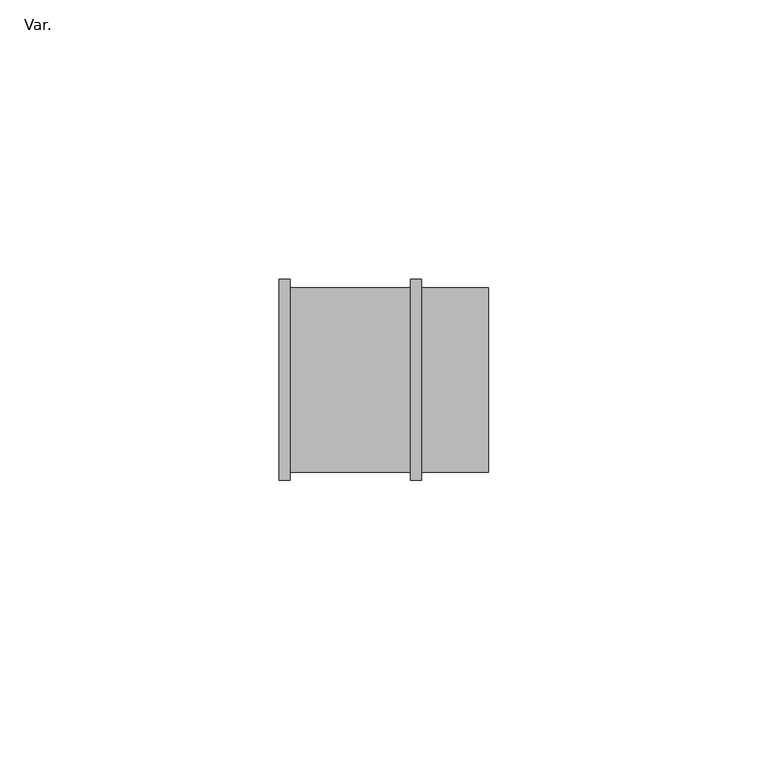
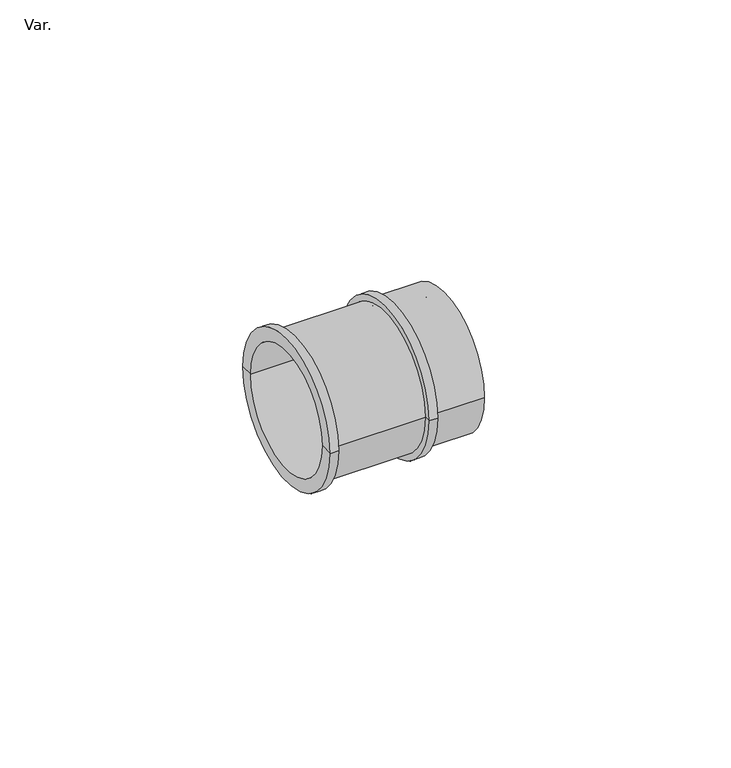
"""IFC4 building model written with IfcOpenShell, lengths in millimetres: cable carrier fitting geometry, PlastigamaWavin_Unionesdetubo_ConduitZNoUsarConector : Var.."""

from ifc_helpers import new_model, si_unit, frame, origin, place, context, project, spatial, polyline, circle_curve, source, transform, mapped, element, save
from ifc_brep_helpers import plane_surface, cylinder_surface, revolved_surface, advanced_brep


def var_9453f919(model_context):
    return source(origin(), model_context, "Body", "AdvancedBrep", [
        advanced_brep(
        [(1.0, -14.825, 0.0), (1.0, 14.825, 0.0), (-24.5, 14.825, 0.0), (-24.5, -14.825, 0.0), (1.0, -13.0, 0.0), (1.0, 13.0, 0.0), (13.0, -13.0, 0.0), (13.0, 13.0, 0.0), (13.0, -16.525, 0.0), (13.0, 16.525, 0.0), (1.0, -16.525, 0.0), (1.0, 16.525, 0.0), (1.0, -18.0, 0.0), (1.0, 18.0, 0.0), (-1.0, -18.0, 0.0), (-1.0, 18.0, 0.0), (-1.0, -16.525, 0.0), (-1.0, 16.525, 0.0), (-22.5, -16.525, 0.0), (-22.5, 16.525, 0.0), (-22.5, -18.0, 0.0), (-22.5, 18.0, 0.0), (-24.5, -18.0, 0.0), (-24.5, 18.0, 0.0)],
        [
            (0, 1, circle_curve(frame((1.0, 0.0, 0.0), z_axis=(1.0, 0.0, 0.0), x_axis=(0.0, 1.0, 0.0)), 14.825)),
            (1, 2),
            (2, 3, circle_curve(frame((-24.5, 0.0, 0.0), z_axis=(-1.0, 0.0, 0.0), x_axis=(0.0, 1.0, 0.0)), 14.825)),
            (3, 0),
            (1, 0, circle_curve(frame((1.0, 0.0, 0.0), z_axis=(1.0, 0.0, 0.0), x_axis=(0.0, 1.0, 0.0)), 14.825)),
            (3, 2, circle_curve(frame((-24.5, 0.0, 0.0), z_axis=(-1.0, 0.0, 0.0), x_axis=(0.0, 1.0, 0.0)), 14.825)),
            (4, 5, circle_curve(frame((1.0, 0.0, 0.0), z_axis=(1.0, 0.0, 0.0), x_axis=(0.0, 1.0, 0.0)), 13.0)),
            (5, 1),
            (0, 4),
            (5, 4, circle_curve(frame((1.0, 0.0, 0.0), z_axis=(1.0, 0.0, 0.0), x_axis=(0.0, 1.0, 0.0)), 13.0)),
            (6, 7, circle_curve(frame((13.0, 0.0, 0.0), z_axis=(1.0, 0.0, 0.0), x_axis=(0.0, 1.0, 0.0)), 13.0)),
            (7, 5),
            (4, 6),
            (7, 6, circle_curve(frame((13.0, 0.0, 0.0), z_axis=(1.0, 0.0, 0.0), x_axis=(0.0, 1.0, 0.0)), 13.0)),
            (8, 9, circle_curve(frame((13.0, 0.0, 0.0), z_axis=(1.0, 0.0, 0.0), x_axis=(0.0, 1.0, 0.0)), 16.525)),
            (9, 7),
            (6, 8),
            (9, 8, circle_curve(frame((13.0, 0.0, 0.0), z_axis=(1.0, 0.0, 0.0), x_axis=(0.0, 1.0, 0.0)), 16.525)),
            (10, 11, circle_curve(frame((1.0, 0.0, 0.0), z_axis=(1.0, 0.0, 0.0), x_axis=(0.0, 1.0, 0.0)), 16.525)),
            (11, 9),
            (8, 10),
            (11, 10, circle_curve(frame((1.0, 0.0, 0.0), z_axis=(1.0, 0.0, 0.0), x_axis=(0.0, 1.0, 0.0)), 16.525)),
            (12, 13, circle_curve(frame((1.0, 0.0, 0.0), z_axis=(1.0, 0.0, 0.0), x_axis=(0.0, 1.0, 0.0)), 18.0)),
            (13, 11),
            (10, 12),
            (13, 12, circle_curve(frame((1.0, 0.0, 0.0), z_axis=(1.0, 0.0, 0.0), x_axis=(0.0, 1.0, 0.0)), 18.0)),
            (14, 15, circle_curve(frame((-1.0, 0.0, 0.0), z_axis=(1.0, 0.0, 0.0), x_axis=(0.0, 1.0, 0.0)), 18.0)),
            (15, 13),
            (12, 14),
            (15, 14, circle_curve(frame((-1.0, 0.0, 0.0), z_axis=(1.0, 0.0, 0.0), x_axis=(0.0, 1.0, 0.0)), 18.0)),
            (16, 17, circle_curve(frame((-1.0, 0.0, 0.0), z_axis=(1.0, 0.0, 0.0), x_axis=(0.0, 1.0, 0.0)), 16.525)),
            (17, 15),
            (14, 16),
            (17, 16, circle_curve(frame((-1.0, 0.0, 0.0), z_axis=(1.0, 0.0, 0.0), x_axis=(0.0, 1.0, 0.0)), 16.525)),
            (18, 19, circle_curve(frame((-22.5, 0.0, 0.0), z_axis=(1.0, 0.0, 0.0), x_axis=(0.0, 1.0, 0.0)), 16.525)),
            (19, 17),
            (16, 18),
            (19, 18, circle_curve(frame((-22.5, 0.0, 0.0), z_axis=(1.0, 0.0, 0.0), x_axis=(0.0, 1.0, 0.0)), 16.525)),
            (20, 21, circle_curve(frame((-22.5, 0.0, 0.0), z_axis=(1.0, 0.0, 0.0), x_axis=(0.0, 1.0, 0.0)), 18.0)),
            (21, 19),
            (18, 20),
            (21, 20, circle_curve(frame((-22.5, 0.0, 0.0), z_axis=(1.0, 0.0, 0.0), x_axis=(0.0, 1.0, 0.0)), 18.0)),
            (22, 23, circle_curve(frame((-24.5, 0.0, 0.0), z_axis=(1.0, 0.0, 0.0), x_axis=(0.0, 1.0, 0.0)), 18.0)),
            (23, 21),
            (20, 22),
            (23, 22, circle_curve(frame((-24.5, 0.0, 0.0), z_axis=(1.0, 0.0, 0.0), x_axis=(0.0, 1.0, 0.0)), 18.0)),
            (2, 23),
            (22, 3),
        ],
        [
            revolved_surface(polyline([(-24.5, 14.825, 0.0), (1.0, 14.825, 0.0)]), (2000.15, 0.0, 0.0), (-1.0, 0.0, 0.0)),
            plane_surface(frame((1.0, 0.0, 0.0), z_axis=(-1.0, 0.0, 0.0), x_axis=(0.0, 1.0, 0.0))),
            revolved_surface(polyline([(1.0, 13.0, 0.0), (13.0, 13.0, 0.0)]), (2000.15, 0.0, 0.0), (-1.0, 0.0, 0.0)),
            plane_surface(frame((13.0, 0.0, 0.0), z_axis=(1.0, 0.0, 0.0), x_axis=(0.0, 1.0, 0.0))),
            cylinder_surface(frame((2000.15, 0.0, 0.0), z_axis=(-1.0, 0.0, 0.0), x_axis=(0.0, 1.0, 0.0)), 16.525),
            plane_surface(frame((1.0, 0.0, 0.0), z_axis=(1.0, 0.0, 0.0), x_axis=(0.0, 1.0, 0.0))),
            cylinder_surface(frame((2000.15, 0.0, 0.0), z_axis=(-1.0, 0.0, 0.0), x_axis=(0.0, 1.0, 0.0)), 18.0),
            plane_surface(frame((-1.0, 0.0, 0.0), z_axis=(-1.0, 0.0, 0.0), x_axis=(0.0, 1.0, 0.0))),
            plane_surface(frame((-22.5, 0.0, 0.0), z_axis=(1.0, 0.0, 0.0), x_axis=(0.0, 1.0, 0.0))),
            plane_surface(frame((-24.5, 0.0, 0.0), z_axis=(-1.0, 0.0, 0.0), x_axis=(0.0, 1.0, 0.0))),
        ],
        [
            (0, [[1, 2, 3, 4]]),
            (0, [[5, -4, 6, -2]]),
            (1, [[7, 8, -1, 9]]),
            (1, [[10, -9, -5, -8]]),
            (2, [[11, 12, -7, 13]]),
            (2, [[14, -13, -10, -12]]),
            (3, [[15, 16, -11, 17]]),
            (3, [[18, -17, -14, -16]]),
            (4, [[19, 20, -15, 21]]),
            (4, [[22, -21, -18, -20]]),
            (5, [[23, 24, -19, 25]]),
            (5, [[26, -25, -22, -24]]),
            (6, [[27, 28, -23, 29]]),
            (6, [[30, -29, -26, -28]]),
            (7, [[31, 32, -27, 33]]),
            (7, [[34, -33, -30, -32]]),
            (4, [[35, 36, -31, 37]]),
            (4, [[38, -37, -34, -36]]),
            (8, [[39, 40, -35, 41]]),
            (8, [[42, -41, -38, -40]]),
            (6, [[43, 44, -39, 45]]),
            (6, [[46, -45, -42, -44]]),
            (9, [[-3, 47, -43, 48]]),
            (9, [[-6, -48, -46, -47]]),
        ],
    ),
    ])


if __name__ == "__main__":
    model = new_model("IFC4")
    model_context = context("Model", 3, world=origin())
    ifc_project = project(units=[si_unit("LENGTHUNIT", "METRE", prefix="MILLI")], contexts=[model_context])
    site = spatial("IfcSite", under=ifc_project)
    building = spatial("IfcBuilding", under=site)
    placement = place(None, origin())
    var_shape = var_9453f919(model_context)
    element("IfcCableCarrierFitting", 1, ObjectType="PlastigamaWavin_Unionesdetubo_ConduitZNoUsarConector : Var.", at=placement, inside=building, context=model_context, shape_type="MappedRepresentation", body=[
        mapped(var_shape, transform((0.0, 0.0, 0.0), x_axis=(1.0, 0.0, 0.0), y_axis=(0.0, 1.0, 0.0), z_axis=(0.0, 0.0, 1.0))),
    ])
    save(model, "model.ifc")
